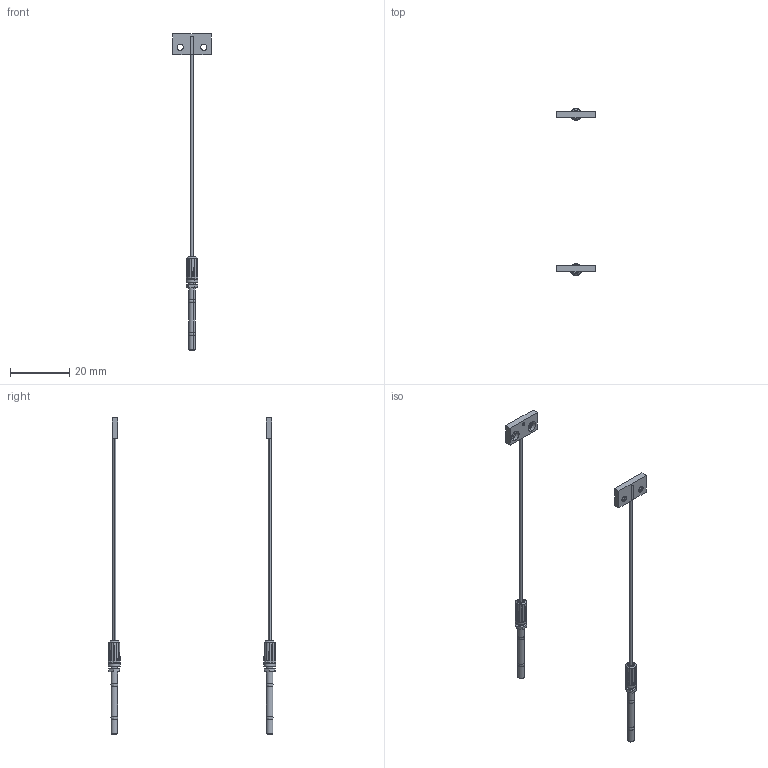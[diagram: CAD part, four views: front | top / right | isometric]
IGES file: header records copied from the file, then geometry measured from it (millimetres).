
Start section: SolidWorks IGES file using analytic representation for surfaces
Bounding box: 13 x 56.5 x 106.78 mm (x, y, z)
Surface area: 1643.6 mm2 (no closed solid volume)
Topology: 0 solids, 0 shells, 220 faces, 2140 edges, 2140 vertices
Faces by surface type: bspline 138, revolution 82
